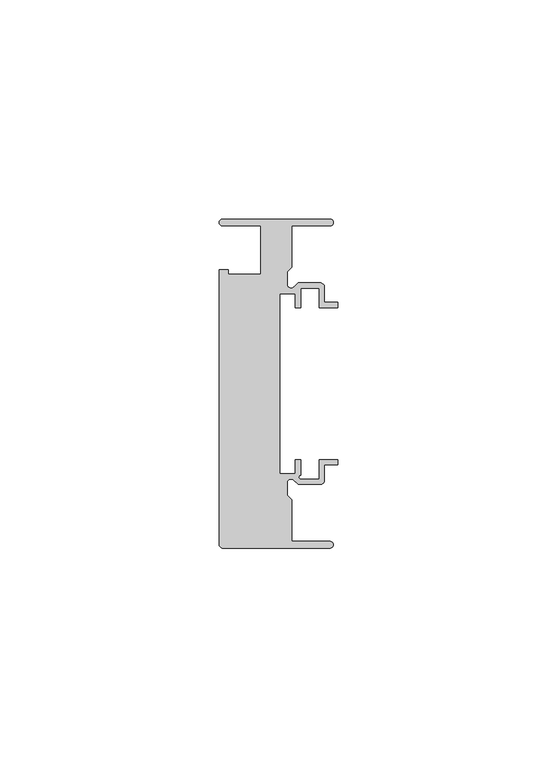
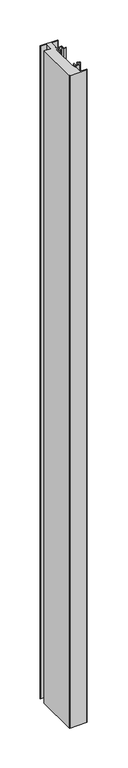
"""IFC4 building model written with IfcOpenShell, lengths in millimetres: member geometry, Прямоугольный импост : 5-AMG-1-Профиль 26Х75 Верх П."""

from ifc_helpers import new_model, si_unit, point, frame, frame_2d, origin, place, context, project, spatial, polyline, circle_curve, trimmed, segment, composite_curve, outline, extrude, source, transform, mapped, element, save


def member_3ae6a51e(model_context):
    return source(origin(), model_context, "Body", "SweptSolid", [
        extrude(outline(composite_curve([segment(trimmed(circle_curve(frame_2d((-1.7, 36.75)), 0.75), [point((-1.7, 37.5))], [point((-1.7, 36.0))], False, "CARTESIAN"), True, "CONTINUOUS"), segment(polyline([(-1.7, 36.0), (-10.5, 36.0), (-10.5, 26.5029437), (-11.5, 25.5029437), (-11.5, 22.6727922)]), True, "CONTINUOUS"), segment(trimmed(circle_curve(frame_2d((-10.6, 22.6727922)), 0.9), [point((-11.5, 22.6727922))], [point((-9.9636039, 22.0363961))], True, "CARTESIAN"), True, "CONTINUOUS"), segment(polyline([(-9.9636039, 22.0363961), (-9.0, 23.0), (-4.0, 23.0)]), True, "CONTINUOUS"), segment(trimmed(circle_curve(frame_2d((-4.0, 22.0)), 1.0), [point((-4.0, 23.0))], [point((-3.0, 22.0))], False, "CARTESIAN"), True, "CONTINUOUS"), segment(polyline([(-3.0, 22.0), (-3.0, 18.55), (0.0, 18.55), (0.0, 17.35), (-4.2, 17.35), (-4.2, 21.8), (-8.45, 21.8), (-8.45, 17.35), (-9.65, 17.35), (-9.65, 20.55), (-13.15, 20.55), (-13.15, -20.55), (-9.65, -20.55), (-9.65, -17.35), (-8.45, -17.35), (-8.45, -20.8470563)]), True, "CONTINUOUS"), segment(trimmed(circle_curve(frame_2d((-8.3343131, -21.3314262)), 0.4979937), [point((-8.45, -20.8470563))], [point((-8.5029437, -21.8))], True, "CARTESIAN"), True, "CONTINUOUS"), segment(polyline([(-8.5029437, -21.8), (-4.2, -21.8), (-4.2, -17.35), (0.0, -17.35), (0.0, -18.55), (-3.0, -18.55), (-3.0, -22.0)]), True, "CONTINUOUS"), segment(trimmed(circle_curve(frame_2d((-4.0, -22.0)), 1.0), [point((-3.0, -22.0))], [point((-4.0, -23.0))], False, "CARTESIAN"), True, "CONTINUOUS"), segment(polyline([(-4.0, -23.0), (-9.0, -23.0), (-9.9636039, -22.0363961)]), True, "CONTINUOUS"), segment(trimmed(circle_curve(frame_2d((-10.6, -22.6727922)), 0.9), [point((-9.9636039, -22.0363961))], [point((-11.5, -22.6727922))], True, "CARTESIAN"), True, "CONTINUOUS"), segment(polyline([(-11.5, -22.6727922), (-11.5, -25.5029437), (-10.5, -26.5029437), (-10.5, -36.0), (-1.7, -36.0)]), True, "CONTINUOUS"), segment(trimmed(circle_curve(frame_2d((-1.7, -36.75)), 0.75), [point((-1.7, -36.0))], [point((-1.7, -37.5))], False, "CARTESIAN"), True, "CONTINUOUS"), segment(polyline([(-1.7, -37.5), (-26.25, -37.5)]), True, "CONTINUOUS"), segment(trimmed(circle_curve(frame_2d((-26.2240507, -36.7244847)), 0.7759493), [point((-26.25, -37.5))], [point((-27.0, -36.7244847))], False, "CARTESIAN"), True, "CONTINUOUS"), segment(polyline([(-27.0, -36.7244847), (-27.0, 26.0), (-24.9359877, 26.0), (-24.9359877, 25.0), (-17.5, 25.0), (-17.5, 36.0), (-26.25, 36.0)]), True, "CONTINUOUS"), segment(trimmed(circle_curve(frame_2d((-26.25, 36.75)), 0.75), [point((-26.25, 36.0))], [point((-26.25, 37.5))], False, "CARTESIAN"), True, "CONTINUOUS"), segment(polyline([(-26.25, 37.5), (-1.7, 37.5)]), True, "CONTINUOUS")], self_intersect=False)), frame((0.0, 0.0, -1000.0), z_axis=(0.0, 0.0, 1.0), x_axis=(1.0, 0.0, 0.0)), (0.0, 0.0, 1.0), 1000.0),
    ])


if __name__ == "__main__":
    model = new_model("IFC4")
    model_context = context("Model", 3, world=origin())
    ifc_project = project(units=[si_unit("LENGTHUNIT", "METRE", prefix="MILLI")], contexts=[model_context])
    site = spatial("IfcSite", under=ifc_project)
    building = spatial("IfcBuilding", under=site)
    placement = place(None, origin())
    member_shape = member_3ae6a51e(model_context)
    element("IfcMember", 1, ObjectType="Прямоугольный импост : 5-AMG-1-Профиль 26Х75 Верх П", at=placement, inside=building, context=model_context, shape_type="MappedRepresentation", body=[
        mapped(member_shape, transform((0.0, 0.0, 0.0), x_axis=(1.0, 0.0, 0.0), y_axis=(0.0, 1.0, 0.0), z_axis=(0.0, 0.0, 1.0))),
    ])
    save(model, "model.ifc")
